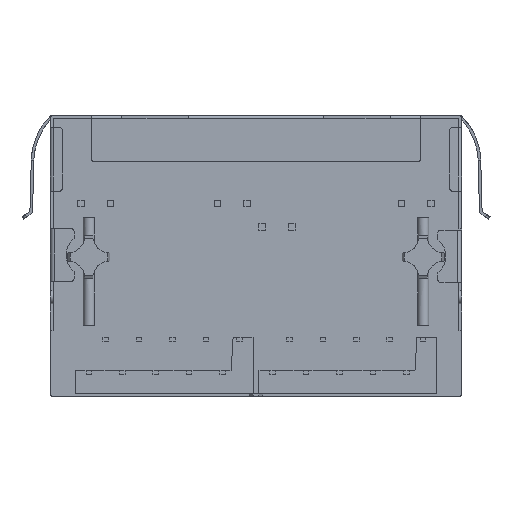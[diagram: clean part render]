
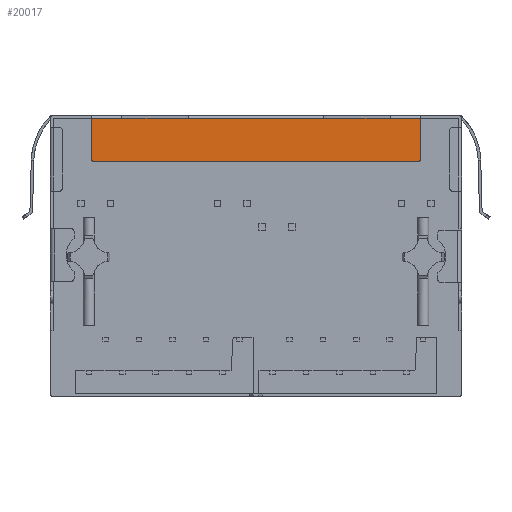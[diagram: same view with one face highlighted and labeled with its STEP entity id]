
A CAD part, front view. The second image highlights one B-rep face of the part: STEP entity #20017.
In plain terms, the highlighted planar face has unit normal (0, -1, 0).
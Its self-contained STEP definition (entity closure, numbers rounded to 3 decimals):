
#5646=DIRECTION('',(-1.,0.,0.));
#5647=VECTOR('',#5646,2.3);
#5648=CARTESIAN_POINT('',(12.5,0.,-0.2));
#5649=LINE('',#5648,#5647);
#5650=DIRECTION('',(0.,0.,-1.));
#5651=VECTOR('',#5650,3.075);
#5652=CARTESIAN_POINT('',(12.5,0.,-0.2));
#5653=LINE('',#5652,#5651);
#5654=CARTESIAN_POINT('',(12.275,0.,-3.275));
#5655=DIRECTION('',(0.,-1.,0.));
#5656=DIRECTION('',(0.,0.,-1.));
#5657=AXIS2_PLACEMENT_3D('',#5654,#5655,#5656);
#5659=DIRECTION('',(-1.,0.,0.));
#5660=VECTOR('',#5659,24.55);
#5661=CARTESIAN_POINT('',(12.275,0.,-3.5));
#5662=LINE('',#5661,#5660);
#5663=CARTESIAN_POINT('',(-12.275,0.,-3.275));
#5664=DIRECTION('',(0.,-1.,0.));
#5665=DIRECTION('',(-1.,0.,0.));
#5666=AXIS2_PLACEMENT_3D('',#5663,#5664,#5665);
#5668=DIRECTION('',(0.,0.,-1.));
#5669=VECTOR('',#5668,3.075);
#5670=CARTESIAN_POINT('',(-12.5,0.,-0.2));
#5671=LINE('',#5670,#5669);
#5672=DIRECTION('',(-1.,0.,0.));
#5673=VECTOR('',#5672,2.3);
#5674=CARTESIAN_POINT('',(-10.2,0.,-0.2));
#5675=LINE('',#5674,#5673);
#5903=DIRECTION('',(-1.,0.,0.));
#5904=VECTOR('',#5903,10.28);
#5905=CARTESIAN_POINT('',(5.14,0.,-0.2));
#5906=LINE('',#5905,#5904);
#5915=DIRECTION('',(-1.,0.,0.));
#5916=VECTOR('',#5915,5.06);
#5917=CARTESIAN_POINT('',(-5.14,0.,-0.2));
#5918=LINE('',#5917,#5916);
#5939=DIRECTION('',(-1.,0.,0.));
#5940=VECTOR('',#5939,5.06);
#5941=CARTESIAN_POINT('',(10.2,0.,-0.2));
#5942=LINE('',#5941,#5940);
#10991=CARTESIAN_POINT('',(-12.5,0.,-3.275));
#10992=CARTESIAN_POINT('',(-12.275,0.,-3.5));
#10993=VERTEX_POINT('',#10991);
#10994=VERTEX_POINT('',#10992);
#11191=CARTESIAN_POINT('',(12.275,0.,-3.5));
#11192=CARTESIAN_POINT('',(12.5,0.,-3.275));
#11193=VERTEX_POINT('',#11191);
#11194=VERTEX_POINT('',#11192);
#11217=CARTESIAN_POINT('',(12.5,0.,-0.2));
#11218=VERTEX_POINT('',#11217);
#11219=CARTESIAN_POINT('',(-12.5,0.,-0.2));
#11220=VERTEX_POINT('',#11219);
#12437=CARTESIAN_POINT('',(-10.2,0.,-0.2));
#12439=VERTEX_POINT('',#12437);
#12441=CARTESIAN_POINT('',(10.2,0.,-0.2));
#12443=VERTEX_POINT('',#12441);
#12518=CARTESIAN_POINT('',(5.14,0.,-0.2));
#12520=VERTEX_POINT('',#12518);
#12521=CARTESIAN_POINT('',(-5.14,0.,-0.2));
#12523=VERTEX_POINT('',#12521);
#19994=CARTESIAN_POINT('',(-15.62,0.,0.));
#19995=DIRECTION('',(0.,-1.,0.));
#19996=DIRECTION('',(0.,0.,-1.));
#19997=AXIS2_PLACEMENT_3D('',#19994,#19995,#19996);
#19998=PLANE('',#19997);
#20000=ORIENTED_EDGE('',*,*,#19999,.F.);
#20002=ORIENTED_EDGE('',*,*,#20001,.F.);
#20003=ORIENTED_EDGE('',*,*,#19778,.F.);
#20004=ORIENTED_EDGE('',*,*,#19794,.T.);
#20006=ORIENTED_EDGE('',*,*,#20005,.F.);
#20008=ORIENTED_EDGE('',*,*,#20007,.T.);
#20010=ORIENTED_EDGE('',*,*,#20009,.F.);
#20011=ORIENTED_EDGE('',*,*,#19264,.F.);
#20012=ORIENTED_EDGE('',*,*,#19280,.F.);
#20014=ORIENTED_EDGE('',*,*,#20013,.F.);
#20015=EDGE_LOOP('',(#20000,#20002,#20003,#20004,#20006,#20008,#20010,#20011,
#20012,#20014));
#20016=FACE_OUTER_BOUND('',#20015,.F.);
#5658=CIRCLE('',#5657,0.225);
#5667=CIRCLE('',#5666,0.225);
#19264=EDGE_CURVE('',#11220,#10993,#5671,.T.);
#19280=EDGE_CURVE('',#12439,#11220,#5675,.T.);
#19778=EDGE_CURVE('',#11218,#12443,#5649,.T.);
#19794=EDGE_CURVE('',#11218,#11194,#5653,.T.);
#19999=EDGE_CURVE('',#12520,#12523,#5906,.T.);
#20001=EDGE_CURVE('',#12443,#12520,#5942,.T.);
#20005=EDGE_CURVE('',#11193,#11194,#5658,.T.);
#20007=EDGE_CURVE('',#11193,#10994,#5662,.T.);
#20009=EDGE_CURVE('',#10993,#10994,#5667,.T.);
#20013=EDGE_CURVE('',#12523,#12439,#5918,.T.);
#20017=ADVANCED_FACE('',(#20016),#19998,.T.);
